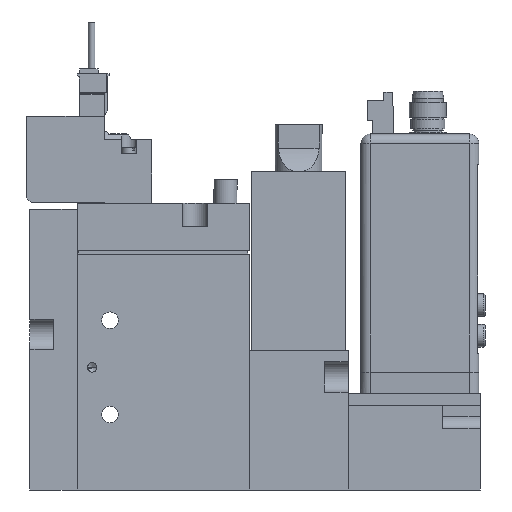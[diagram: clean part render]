
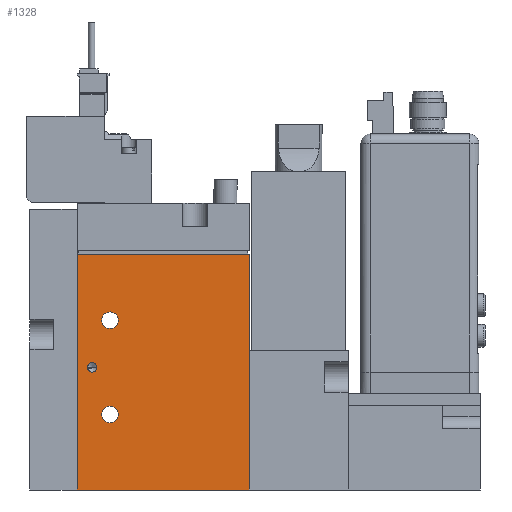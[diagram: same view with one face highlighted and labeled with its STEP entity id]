
A CAD part, left-side view. The second image highlights one B-rep face of the part: STEP entity #1328.
In plain terms, the highlighted planar face has unit normal (-1, 0, 0) as drawn and (1, 0, 0) by its records, which use the part's own axes.
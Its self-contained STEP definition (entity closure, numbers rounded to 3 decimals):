
#1328=ADVANCED_FACE('',(#2715,#2716,#2717,#2718),#2719,.F.);
#2715=FACE_BOUND('',#4461,.T.);
#2716=FACE_BOUND('',#4462,.T.);
#2717=FACE_BOUND('',#4463,.T.);
#2718=FACE_OUTER_BOUND('',#4464,.T.);
#2719=PLANE('',#4465);
#4461=EDGE_LOOP('',(#8783));
#4462=EDGE_LOOP('',(#8784));
#4463=EDGE_LOOP('',(#8785));
#4464=EDGE_LOOP('',(#8786,#8787,#8788,#8789));
#4465=AXIS2_PLACEMENT_3D('',#8790,#8791,#8792);
#8783=ORIENTED_EDGE('',*,*,#12314,.F.);
#8784=ORIENTED_EDGE('',*,*,#12313,.T.);
#8785=ORIENTED_EDGE('',*,*,#12307,.T.);
#8786=ORIENTED_EDGE('',*,*,#12315,.T.);
#8787=ORIENTED_EDGE('',*,*,#12316,.F.);
#8788=ORIENTED_EDGE('',*,*,#12309,.F.);
#8789=ORIENTED_EDGE('',*,*,#12317,.T.);
#8790=CARTESIAN_POINT('',(8.5,-19.444,50.0));
#8791=DIRECTION('',(-1.0,0.0,0.0));
#8792=DIRECTION('',(0.0,0.0,1.0));
#12307=EDGE_CURVE('',#14943,#14943,#14944,.T.);
#12309=EDGE_CURVE('',#14945,#14947,#14948,.T.);
#12313=EDGE_CURVE('',#14954,#14954,#14955,.T.);
#12314=EDGE_CURVE('',#14956,#14956,#14957,.T.);
#12315=EDGE_CURVE('',#14958,#14959,#14960,.T.);
#12316=EDGE_CURVE('',#14947,#14959,#14961,.T.);
#12317=EDGE_CURVE('',#14945,#14958,#14962,.T.);
#14943=VERTEX_POINT('',#19150);
#14944=CIRCLE('',#19151,1.75);
#14945=VERTEX_POINT('',#19152);
#14947=VERTEX_POINT('',#19155);
#14948=LINE('',#19156,#19157);
#14954=VERTEX_POINT('',#19164);
#14955=CIRCLE('',#19165,1.75);
#14956=VERTEX_POINT('',#19166);
#14957=CIRCLE('',#19167,1.0);
#14958=VERTEX_POINT('',#19168);
#14959=VERTEX_POINT('',#19169);
#14960=LINE('',#19170,#19171);
#14961=LINE('',#19172,#19173);
#14962=LINE('',#19174,#19175);
#19150=CARTESIAN_POINT('',(8.5,-10.694,16.0));
#19151=AXIS2_PLACEMENT_3D('',#22524,#22525,#22526);
#19152=CARTESIAN_POINT('',(8.5,-19.444,50.0));
#19155=CARTESIAN_POINT('',(8.5,17.056,50.0));
#19156=CARTESIAN_POINT('',(8.5,-19.444,50.0));
#19157=VECTOR('',#22528,1.0);
#19164=CARTESIAN_POINT('',(8.5,-10.694,36.0));
#19165=AXIS2_PLACEMENT_3D('',#22536,#22537,#22538);
#19166=CARTESIAN_POINT('',(8.5,-17.244,26.0));
#19167=AXIS2_PLACEMENT_3D('',#22539,#22540,#22541);
#19168=CARTESIAN_POINT('',(8.5,-19.444,0.0));
#19169=CARTESIAN_POINT('',(8.5,17.056,0.0));
#19170=CARTESIAN_POINT('',(8.5,-19.444,0.0));
#19171=VECTOR('',#22542,1.0);
#19172=CARTESIAN_POINT('',(8.5,17.056,50.0));
#19173=VECTOR('',#22543,1.0);
#19174=CARTESIAN_POINT('',(8.5,-19.444,50.0));
#19175=VECTOR('',#22544,1.0);
#22524=CARTESIAN_POINT('',(8.5,-12.444,16.0));
#22525=DIRECTION('',(-1.0,0.0,0.0));
#22526=DIRECTION('',(0.0,1.0,0.0));
#22528=DIRECTION('',(0.0,1.0,0.0));
#22536=CARTESIAN_POINT('',(8.5,-12.444,36.0));
#22537=DIRECTION('',(-1.0,0.0,0.0));
#22538=DIRECTION('',(0.0,1.0,0.0));
#22539=CARTESIAN_POINT('',(8.5,-16.244,26.0));
#22540=DIRECTION('',(1.0,0.,0.0));
#22541=DIRECTION('',(0.,-1.0,0.0));
#22542=DIRECTION('',(0.0,1.0,0.0));
#22543=DIRECTION('',(0.0,0.0,-1.0));
#22544=DIRECTION('',(0.0,0.0,-1.0));
